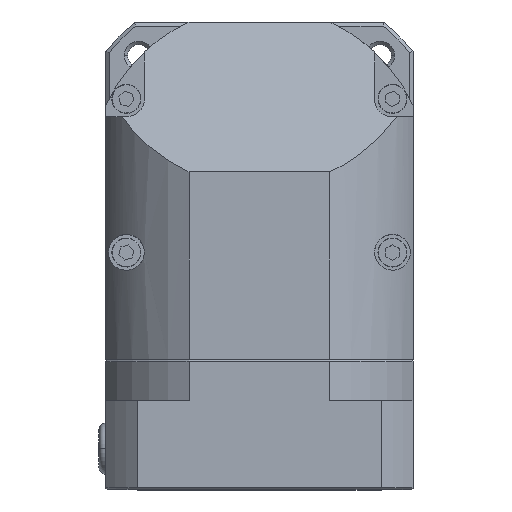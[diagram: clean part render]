
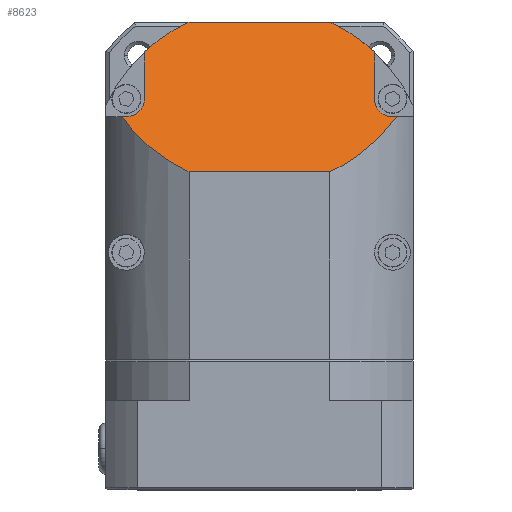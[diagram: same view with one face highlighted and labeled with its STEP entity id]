
A CAD part, top view. The second image highlights one B-rep face of the part: STEP entity #8623.
In plain terms, the highlighted planar face has unit normal (0, 0.707, 0.707).
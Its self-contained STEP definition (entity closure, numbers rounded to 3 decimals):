
#214 = CARTESIAN_POINT ( 'NONE',  ( -34.545, 30.9, 155.013 ) ) ;
#250 = VECTOR ( 'NONE', #4642, 1000. ) ;
#389 = DIRECTION ( 'NONE',  ( 0., 0.707, -0.707 ) ) ;
#466 = CARTESIAN_POINT ( 'NONE',  ( 34.417, 4.83, 181.083 ) ) ;
#803 = VECTOR ( 'NONE', #1029, 1000. ) ;
#980 = VECTOR ( 'NONE', #389, 1000. ) ;
#1029 = DIRECTION ( 'NONE',  ( 0., -0.707, 0.707 ) ) ;
#1036 = CARTESIAN_POINT ( 'NONE',  ( 59.176, -4.337, 190.25 ) ) ;
#1039 = CARTESIAN_POINT ( 'NONE',  ( -34.545, 16.913, 169. ) ) ;
#1263 = ORIENTED_EDGE ( 'NONE', *, *, #13227, .T. ) ;
#1311 = VECTOR ( 'NONE', #9536, 1000. ) ;
#1602 = LINE ( 'NONE', #7298, #3743 ) ;
#1611 = CARTESIAN_POINT ( 'NONE',  ( 19.798, -4.337, 190.25 ) ) ;
#1760 = DIRECTION ( 'NONE',  ( -1., 0., 0. ) ) ;
#1878 = CARTESIAN_POINT ( 'NONE',  ( 32.898, 30.9, 155.013 ) ) ;
#1901 = CARTESIAN_POINT ( 'NONE',  ( 32.898, 16.913, 169. ) ) ;
#1959 = PLANE ( 'NONE',  #10151 ) ;
#2081 = LINE ( 'NONE', #9651, #803 ) ;
#2227 = CARTESIAN_POINT ( 'NONE',  ( -39.545, 11.913, 174. ) ) ;
#2335 = CARTESIAN_POINT ( 'NONE',  ( -30.666, 34.51, 151.403 ) ) ;
#2419 = ORIENTED_EDGE ( 'NONE', *, *, #9829, .F. ) ;
#2594 = CARTESIAN_POINT ( 'NONE',  ( -21.445, -4.337, 190.25 ) ) ;
#2664 = CARTESIAN_POINT ( 'NONE',  ( 37.898, 11.913, 174. ) ) ;
#2763 = EDGE_CURVE ( 'NONE', #10407, #12585, #2081, .T. ) ;
#3244 = DIRECTION ( 'NONE',  ( 0., -0.707, -0.707 ) ) ;
#3340 = CARTESIAN_POINT ( 'NONE',  ( -29.356, -0.712, 186.625 ) ) ;
#3399 = VERTEX_POINT ( 'NONE', #1878 ) ;
#3634 = CARTESIAN_POINT ( 'NONE',  ( -34.545, 16.913, 169. ) ) ;
#3743 = VECTOR ( 'NONE', #1760, 1000. ) ;
#4053 = CARTESIAN_POINT ( 'NONE',  ( 32.898, 13.984, 171.929 ) ) ;
#4081 = ORIENTED_EDGE ( 'NONE', *, *, #11537, .T. ) ;
#4103 =( BOUNDED_CURVE ( )  B_SPLINE_CURVE ( 3, ( #10450, #466, #7007, #9364 ),
 .UNSPECIFIED., .F., .T. ) 
 B_SPLINE_CURVE_WITH_KNOTS ( ( 4, 4 ),
 ( 2.191, 2.712 ),
 .UNSPECIFIED. ) 
 CURVE ( )  GEOMETRIC_REPRESENTATION_ITEM ( )  RATIONAL_B_SPLINE_CURVE ( ( 1., 0.977, 0.977, 1. ) ) 
 REPRESENTATION_ITEM ( '' )  );
#4325 = LINE ( 'NONE', #10680, #1311 ) ;
#4340 = ORIENTED_EDGE ( 'NONE', *, *, #11307, .T. ) ;
#4605 = LINE ( 'NONE', #8947, #13543 ) ;
#4642 = DIRECTION ( 'NONE',  ( -1., 0., 0. ) ) ;
#4751 = EDGE_CURVE ( 'NONE', #5875, #7436, #4325, .T. ) ;
#5490 = CARTESIAN_POINT ( 'NONE',  ( 32.898, 30.9, 155.013 ) ) ;
#5564 = VERTEX_POINT ( 'NONE', #9693 ) ;
#5632 = CARTESIAN_POINT ( 'NONE',  ( 29.019, 34.51, 151.403 ) ) ;
#5716 = CARTESIAN_POINT ( 'NONE',  ( 59.176, 39.663, 146.25 ) ) ;
#5798 = ORIENTED_EDGE ( 'NONE', *, *, #2763, .T. ) ;
#5875 = VERTEX_POINT ( 'NONE', #1611 ) ;
#7007 = CARTESIAN_POINT ( 'NONE',  ( 27.709, -0.712, 186.625 ) ) ;
#7022 = CARTESIAN_POINT ( 'NONE',  ( 32.898, 16.913, 169. ) ) ;
#7028 = ORIENTED_EDGE ( 'NONE', *, *, #9888, .T. ) ;
#7154 = EDGE_CURVE ( 'NONE', #11886, #9645, #9478, .T. ) ;
#7298 = CARTESIAN_POINT ( 'NONE',  ( 59.176, 11.913, 174. ) ) ;
#7360 = EDGE_CURVE ( 'NONE', #12852, #5875, #4103, .T. ) ;
#7380 = CARTESIAN_POINT ( 'NONE',  ( -21.445, 39.663, 146.25 ) ) ;
#7436 = VERTEX_POINT ( 'NONE', #2594 ) ;
#7545 = CARTESIAN_POINT ( 'NONE',  ( 19.798, 39.663, 146.25 ) ) ;
#8086 =( BOUNDED_CURVE ( )  B_SPLINE_CURVE ( 3, ( #13107, #3340, #9889, #12290 ),
 .UNSPECIFIED., .F., .T. ) 
 B_SPLINE_CURVE_WITH_KNOTS ( ( 4, 4 ),
 ( 3.571, 4.093 ),
 .UNSPECIFIED. ) 
 CURVE ( )  GEOMETRIC_REPRESENTATION_ITEM ( )  RATIONAL_B_SPLINE_CURVE ( ( 1., 0.977, 0.977, 1. ) ) 
 REPRESENTATION_ITEM ( '' )  );
#8263 = CARTESIAN_POINT ( 'NONE',  ( -34.545, 30.9, 155.013 ) ) ;
#8434 = ORIENTED_EDGE ( 'NONE', *, *, #10683, .F. ) ;
#8623 = ADVANCED_FACE ( 'NONE', ( #9802 ), #1959, .F. ) ;
#8829 = CARTESIAN_POINT ( 'NONE',  ( -21.445, 39.663, 146.25 ) ) ;
#8947 = CARTESIAN_POINT ( 'NONE',  ( 59.176, 11.913, 174. ) ) ;
#9316 = ORIENTED_EDGE ( 'NONE', *, *, #4751, .F. ) ;
#9364 = CARTESIAN_POINT ( 'NONE',  ( 19.798, -4.337, 190.25 ) ) ;
#9433 = EDGE_CURVE ( 'NONE', #10407, #10788, #11384, .T. ) ;
#9466 = CARTESIAN_POINT ( 'NONE',  ( 34.969, 11.913, 174. ) ) ;
#9478 =( BOUNDED_CURVE ( )  B_SPLINE_CURVE ( 3, ( #10118, #9466, #4053, #1901 ),
 .UNSPECIFIED., .F., .T. ) 
 B_SPLINE_CURVE_WITH_KNOTS ( ( 4, 4 ),
 ( 3.142, 4.712 ),
 .UNSPECIFIED. ) 
 CURVE ( )  GEOMETRIC_REPRESENTATION_ITEM ( )  RATIONAL_B_SPLINE_CURVE ( ( 1., 0.805, 0.805, 1. ) ) 
 REPRESENTATION_ITEM ( '' )  );
#9536 = DIRECTION ( 'NONE',  ( -1., 0., 0. ) ) ;
#9559 = CARTESIAN_POINT ( 'NONE',  ( -41.119, 11.913, 174. ) ) ;
#9645 = VERTEX_POINT ( 'NONE', #7022 ) ;
#9651 = CARTESIAN_POINT ( 'NONE',  ( -34.545, -4.337, 190.25 ) ) ;
#9693 = CARTESIAN_POINT ( 'NONE',  ( 19.798, 39.663, 146.25 ) ) ;
#9743 = CARTESIAN_POINT ( 'NONE',  ( -36.616, 11.913, 174. ) ) ;
#9773 = CARTESIAN_POINT ( 'NONE',  ( 24.615, 37.456, 148.457 ) ) ;
#9802 = FACE_OUTER_BOUND ( 'NONE', #10343, .T. ) ;
#9829 = EDGE_CURVE ( 'NONE', #7436, #11147, #8086, .T. ) ;
#9846 = ORIENTED_EDGE ( 'NONE', *, *, #9433, .F. ) ;
#9888 = EDGE_CURVE ( 'NONE', #9645, #3399, #10146, .T. ) ;
#9889 = CARTESIAN_POINT ( 'NONE',  ( -36.065, 4.83, 181.083 ) ) ;
#10118 = CARTESIAN_POINT ( 'NONE',  ( 37.898, 11.913, 174. ) ) ;
#10146 = LINE ( 'NONE', #14098, #980 ) ;
#10151 = AXIS2_PLACEMENT_3D ( 'NONE', #1036, #3244, #13934 ) ;
#10343 = EDGE_LOOP ( 'NONE', ( #10696, #12153, #7028, #8434, #1263, #9846, #5798, #4081, #4340, #2419, #9316, #13610 ) ) ;
#10407 = VERTEX_POINT ( 'NONE', #8263 ) ;
#10450 = CARTESIAN_POINT ( 'NONE',  ( 39.471, 11.913, 174. ) ) ;
#10680 = CARTESIAN_POINT ( 'NONE',  ( 59.176, -4.337, 190.25 ) ) ;
#10683 = EDGE_CURVE ( 'NONE', #5564, #3399, #12943, .T. ) ;
#10696 = ORIENTED_EDGE ( 'NONE', *, *, #13031, .T. ) ;
#10788 = VERTEX_POINT ( 'NONE', #7380 ) ;
#11045 = CARTESIAN_POINT ( 'NONE',  ( -26.262, 37.456, 148.457 ) ) ;
#11147 = VERTEX_POINT ( 'NONE', #9559 ) ;
#11307 = EDGE_CURVE ( 'NONE', #13097, #11147, #1602, .T. ) ;
#11384 =( BOUNDED_CURVE ( )  B_SPLINE_CURVE ( 3, ( #214, #2335, #11045, #8829 ),
 .UNSPECIFIED., .F., .T. ) 
 B_SPLINE_CURVE_WITH_KNOTS ( ( 4, 4 ),
 ( 5.534, 5.853 ),
 .UNSPECIFIED. ) 
 CURVE ( )  GEOMETRIC_REPRESENTATION_ITEM ( )  RATIONAL_B_SPLINE_CURVE ( ( 1., 0.991, 0.991, 1. ) ) 
 REPRESENTATION_ITEM ( '' )  );
#11537 = EDGE_CURVE ( 'NONE', #12585, #13097, #12855, .T. ) ;
#11737 = CARTESIAN_POINT ( 'NONE',  ( -34.545, 13.984, 171.929 ) ) ;
#11886 = VERTEX_POINT ( 'NONE', #2664 ) ;
#12036 = CARTESIAN_POINT ( 'NONE',  ( 39.471, 11.913, 174. ) ) ;
#12153 = ORIENTED_EDGE ( 'NONE', *, *, #7154, .T. ) ;
#12290 = CARTESIAN_POINT ( 'NONE',  ( -41.119, 11.913, 174. ) ) ;
#12585 = VERTEX_POINT ( 'NONE', #3634 ) ;
#12852 = VERTEX_POINT ( 'NONE', #12036 ) ;
#12855 =( BOUNDED_CURVE ( )  B_SPLINE_CURVE ( 3, ( #1039, #11737, #9743, #14084 ),
 .UNSPECIFIED., .F., .T. ) 
 B_SPLINE_CURVE_WITH_KNOTS ( ( 4, 4 ),
 ( 1.571, 3.142 ),
 .UNSPECIFIED. ) 
 CURVE ( )  GEOMETRIC_REPRESENTATION_ITEM ( )  RATIONAL_B_SPLINE_CURVE ( ( 1., 0.805, 0.805, 1. ) ) 
 REPRESENTATION_ITEM ( '' )  );
#12943 =( BOUNDED_CURVE ( )  B_SPLINE_CURVE ( 3, ( #7545, #9773, #5632, #5490 ),
 .UNSPECIFIED., .F., .T. ) 
 B_SPLINE_CURVE_WITH_KNOTS ( ( 4, 4 ),
 ( 0.43, 0.749 ),
 .UNSPECIFIED. ) 
 CURVE ( )  GEOMETRIC_REPRESENTATION_ITEM ( )  RATIONAL_B_SPLINE_CURVE ( ( 1., 0.991, 0.991, 1. ) ) 
 REPRESENTATION_ITEM ( '' )  );
#13031 = EDGE_CURVE ( 'NONE', #12852, #11886, #4605, .T. ) ;
#13097 = VERTEX_POINT ( 'NONE', #2227 ) ;
#13107 = CARTESIAN_POINT ( 'NONE',  ( -21.445, -4.337, 190.25 ) ) ;
#13227 = EDGE_CURVE ( 'NONE', #5564, #10788, #13418, .T. ) ;
#13307 = DIRECTION ( 'NONE',  ( -1., 0., 0. ) ) ;
#13418 = LINE ( 'NONE', #5716, #250 ) ;
#13543 = VECTOR ( 'NONE', #13307, 1000. ) ;
#13610 = ORIENTED_EDGE ( 'NONE', *, *, #7360, .F. ) ;
#13934 = DIRECTION ( 'NONE',  ( 0., -0.707, 0.707 ) ) ;
#14084 = CARTESIAN_POINT ( 'NONE',  ( -39.545, 11.913, 174. ) ) ;
#14098 = CARTESIAN_POINT ( 'NONE',  ( 32.898, -4.337, 190.25 ) ) ;
